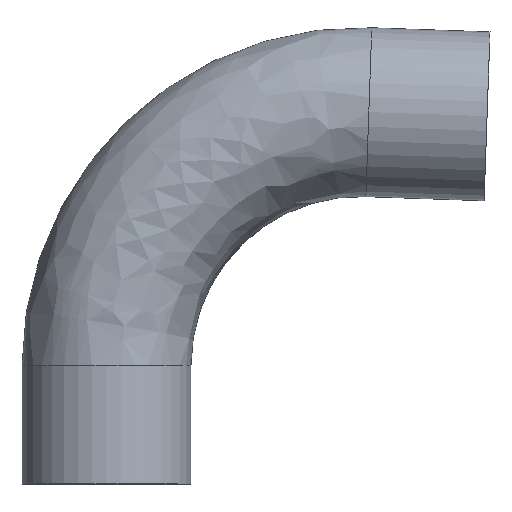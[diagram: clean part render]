
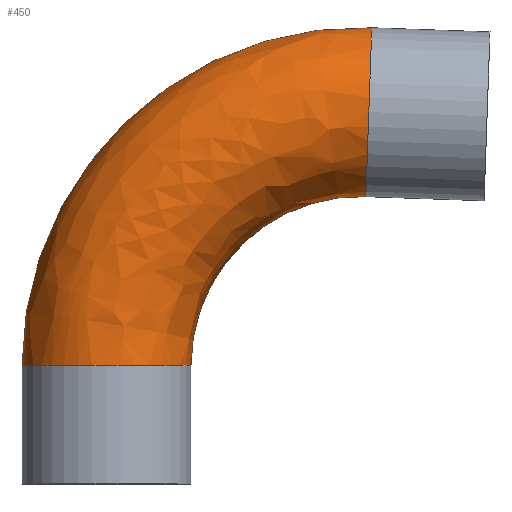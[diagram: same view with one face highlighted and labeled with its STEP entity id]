
A CAD part, top view. The second image highlights one B-rep face of the part: STEP entity #450.
In plain terms, the highlighted free-form (B-spline) face has degree [3, 3] with [4, 4] control points.
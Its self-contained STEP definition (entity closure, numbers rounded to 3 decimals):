
#6 = CARTESIAN_POINT ( 'NONE',  ( 98.574, 139.731, 0. ) ) ;
#36 = ORIENTED_EDGE ( 'NONE', *, *, #270, .T. ) ;
#48 = ORIENTED_EDGE ( 'NONE', *, *, #205, .T. ) ;
#52 = CIRCLE ( 'NONE', #85, 31.75 ) ;
#58 = CARTESIAN_POINT ( 'NONE',  ( 23.258, 174.131, 63.5 ) ) ;
#63 = CIRCLE ( 'NONE', #181, 31.75 ) ;
#70 = VERTEX_POINT ( 'NONE', #189 ) ;
#85 = AXIS2_PLACEMENT_3D ( 'NONE', #436, #368, #366 ) ;
#87 = VERTEX_POINT ( 'NONE', #186 ) ;
#89 = CIRCLE ( 'NONE', #230, 127. ) ;
#100 = VERTEX_POINT ( 'NONE', #267 ) ;
#107 = DIRECTION ( 'NONE',  ( 0.035, 0.999, 0. ) ) ;
#117 = CARTESIAN_POINT ( 'NONE',  ( 95.25, 44.539, 0. ) ) ;
#131 = CIRCLE ( 'NONE', #461, 63.5 ) ;
#144 = DIRECTION ( 'NONE',  ( 0., 0., -1. ) ) ;
#159 = CARTESIAN_POINT ( 'NONE',  ( 99.682, 171.462, 0. ) ) ;
#160 = CARTESIAN_POINT ( 'NONE',  ( 97.466, 108.001, 0. ) ) ;
#161 = CARTESIAN_POINT ( 'NONE',  ( 59.254, 109.335, 0. ) ) ;
#164 = CARTESIAN_POINT ( 'NONE',  ( 31.75, 82.775, 0. ) ) ;
#166 = CARTESIAN_POINT ( 'NONE',  ( 31.75, 44.539, 0. ) ) ;
#170 = CARTESIAN_POINT ( 'NONE',  ( 97.466, 108.001, 63.5 ) ) ;
#174 = CARTESIAN_POINT ( 'NONE',  ( 23.258, 174.131, 0. ) ) ;
#179 = CARTESIAN_POINT ( 'NONE',  ( -31.75, 44.539, 0. ) ) ;
#181 = AXIS2_PLACEMENT_3D ( 'NONE', #6, #345, #107 ) ;
#186 = CARTESIAN_POINT ( 'NONE',  ( 99.682, 171.462, 0. ) ) ;
#189 = CARTESIAN_POINT ( 'NONE',  ( 97.466, 108.001, 0. ) ) ;
#190 = EDGE_CURVE ( 'NONE', #70, #87, #63, .T. ) ;
#194 = CARTESIAN_POINT ( 'NONE',  ( 99.682, 171.462, 63.5 ) ) ;
#195 = CARTESIAN_POINT ( 'NONE',  ( -31.75, 44.539, 0. ) ) ;
#198 = CARTESIAN_POINT ( 'NONE',  ( 31.75, 44.539, 63.5 ) ) ;
#205 = EDGE_CURVE ( 'NONE', #207, #100, #52, .T. ) ;
#207 = VERTEX_POINT ( 'NONE', #179 ) ;
#209 = ORIENTED_EDGE ( 'NONE', *, *, #395, .F. ) ;
#221 = EDGE_LOOP ( 'NONE', ( #48, #36, #318, #209 ) ) ;
#230 = AXIS2_PLACEMENT_3D ( 'NONE', #392, #389, #387 ) ;
#244 = CARTESIAN_POINT ( 'NONE',  ( 31.75, 82.775, 63.5 ) ) ;
#248 = CARTESIAN_POINT ( 'NONE',  ( -31.75, 121.01, 63.5 ) ) ;
#249 = CARTESIAN_POINT ( 'NONE',  ( -31.75, 121.01, 0. ) ) ;
#267 = CARTESIAN_POINT ( 'NONE',  ( 31.75, 44.539, 0. ) ) ;
#268 =( BOUNDED_SURFACE ( )  B_SPLINE_SURFACE ( 3, 3, ( 
 ( #195, #249, #174, #159 ),
 ( #457, #248, #58, #194 ),
 ( #198, #244, #304, #170 ),
 ( #166, #164, #161, #160 ) ),
 .UNSPECIFIED., .F., .F., .T. ) 
 B_SPLINE_SURFACE_WITH_KNOTS ( ( 4, 4 ),
 ( 4, 4 ),
 ( 0., 1. ),
 ( 0., 1. ),
 .UNSPECIFIED. ) 
 GEOMETRIC_REPRESENTATION_ITEM ( )  RATIONAL_B_SPLINE_SURFACE ( (
 ( 1., 0.796, 0.796, 1.),
 ( 0.333, 0.265, 0.265, 0.333),
 ( 0.333, 0.265, 0.265, 0.333),
 ( 1., 0.796, 0.796, 1.) ) ) 
 REPRESENTATION_ITEM ( '' )  SURFACE ( )  );
#270 = EDGE_CURVE ( 'NONE', #100, #70, #131, .T. ) ;
#304 = CARTESIAN_POINT ( 'NONE',  ( 59.254, 109.335, 63.5 ) ) ;
#318 = ORIENTED_EDGE ( 'NONE', *, *, #190, .T. ) ;
#345 = DIRECTION ( 'NONE',  ( -0.999, 0.035, 0. ) ) ;
#366 = DIRECTION ( 'NONE',  ( -1., 0., 0. ) ) ;
#368 = DIRECTION ( 'NONE',  ( 0., 1., 0. ) ) ;
#387 = DIRECTION ( 'NONE',  ( -1., 0., 0. ) ) ;
#388 = FACE_OUTER_BOUND ( 'NONE', #221, .T. ) ;
#389 = DIRECTION ( 'NONE',  ( 0., 0., -1. ) ) ;
#392 = CARTESIAN_POINT ( 'NONE',  ( 95.25, 44.539, 0. ) ) ;
#395 = EDGE_CURVE ( 'NONE', #207, #87, #89, .T. ) ;
#411 = DIRECTION ( 'NONE',  ( -1., 0., 0. ) ) ;
#436 = CARTESIAN_POINT ( 'NONE',  ( 0., 44.539, 0. ) ) ;
#450 = ADVANCED_FACE ( 'NONE', ( #388 ), #268, .T. ) ;
#457 = CARTESIAN_POINT ( 'NONE',  ( -31.75, 44.539, 63.5 ) ) ;
#461 = AXIS2_PLACEMENT_3D ( 'NONE', #117, #144, #411 ) ;
